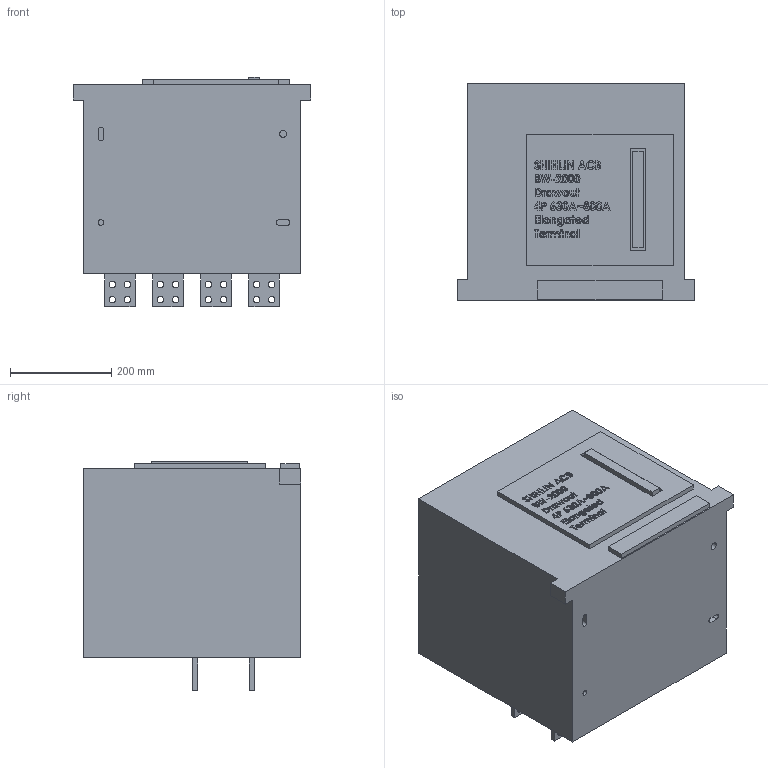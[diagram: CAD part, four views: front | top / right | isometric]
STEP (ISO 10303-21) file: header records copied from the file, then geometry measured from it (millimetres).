
FILE_DESCRIPTION (( 'STEP AP203' ), '1' );
FILE_NAME ('BW-2000-Drawout-4P-630-800A-Elongated Terminal.STEP', '2016-11-03T01:06:29', ( '' ), ( '' ), 'SwSTEP 2.0', 'SolidWorks 2015', '' );
FILE_SCHEMA (( 'CONFIG_CONTROL_DESIGN' ));
Length unit declared in the file: millimetre
Products named in the file (1): BW-2000-Drawout-4P-630-800A-Elongated Terminal
Bounding box: 470 x 430 x 453.5 mm (x, y, z)
Volume: 70159121.8 mm3; surface area: 1158301 mm2
Topology: 1 solids, 1 shells, 828 faces, 2187 edges, 1458 vertices
Faces by surface type: plane 471, bspline 284, cylinder 73
Entity records: 40746 total; most frequent: CARTESIAN_POINT 21806, ORIENTED_EDGE 4374, DIRECTION 2855, EDGE_CURVE 2187, LINE 1473, VECTOR 1473, VERTEX_POINT 1458, EDGE_LOOP 989
